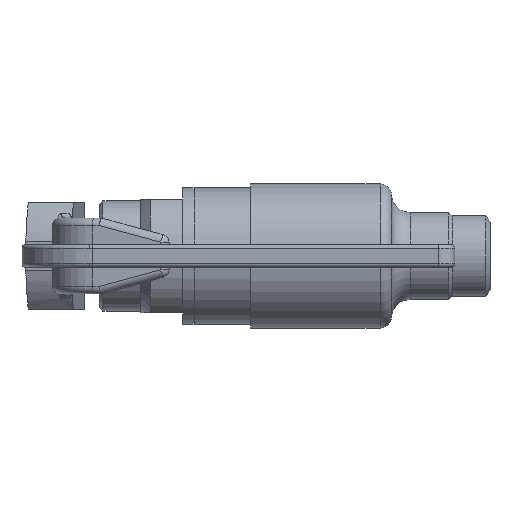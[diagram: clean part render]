
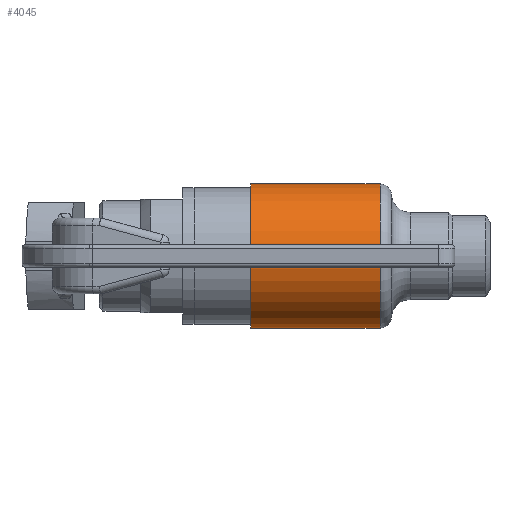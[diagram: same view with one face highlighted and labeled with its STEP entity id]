
A CAD part, left-side view. The second image highlights one B-rep face of the part: STEP entity #4045.
In plain terms, the highlighted cylindrical face has radius 19 mm (diameter 38 mm), a partial arc.
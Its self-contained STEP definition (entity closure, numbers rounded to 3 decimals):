
#16720 = VERTEX_POINT ( 'NONE', #719 ) ;
#16945 = EDGE_CURVE ( 'NONE', #16720, #3781, #918, .T. ) ;
#719 = CARTESIAN_POINT ( 'NONE',  ( 0., -49.016, -19. ) ) ;
#17119 = CARTESIAN_POINT ( 'NONE',  ( 0., -15., -19. ) ) ;
#918 = CIRCLE ( 'NONE', #919, 19. ) ;
#919 = AXIS2_PLACEMENT_3D ( 'NONE', #920, #921, #922 ) ;
#920 = CARTESIAN_POINT ( 'NONE',  ( 0., -49.016, 0. ) ) ;
#921 = DIRECTION ( 'NONE',  ( 0., 1., 0. ) ) ;
#922 = DIRECTION ( 'NONE',  ( 0., 0., -1. ) ) ;
#1264 = EDGE_CURVE ( 'NONE', #1523, #2674, #15760, .T. ) ;
#1523 = VERTEX_POINT ( 'NONE', #15932 ) ;
#1649 = ORIENTED_EDGE ( 'NONE', *, *, #1264, .T. ) ;
#1776 = LINE ( 'NONE', #1780, #1781 ) ;
#1780 = CARTESIAN_POINT ( 'NONE',  ( 0., -52., 19. ) ) ;
#1781 = VECTOR ( 'NONE', #1782, 1000. ) ;
#1782 = DIRECTION ( 'NONE',  ( 0., 1., 0. ) ) ;
#2180 = ORIENTED_EDGE ( 'NONE', *, *, #6501, .T. ) ;
#18692 = CARTESIAN_POINT ( 'NONE',  ( 0., -49.016, 19. ) ) ;
#2674 = VERTEX_POINT ( 'NONE', #17119 ) ;
#2728 = ORIENTED_EDGE ( 'NONE', *, *, #16945, .T. ) ;
#3270 = ORIENTED_EDGE ( 'NONE', *, *, #11708, .F. ) ;
#19669 = FACE_OUTER_BOUND ( 'NONE', #3800, .T. ) ;
#19670 = CYLINDRICAL_SURFACE ( 'NONE', #19671, 19. ) ;
#19671 = AXIS2_PLACEMENT_3D ( 'NONE', #19672, #19679, #19680 ) ;
#19672 = CARTESIAN_POINT ( 'NONE',  ( 0., -52., 0. ) ) ;
#19679 = DIRECTION ( 'NONE',  ( 0., 1., 0. ) ) ;
#19680 = DIRECTION ( 'NONE',  ( 0., 0., 1. ) ) ;
#3781 = VERTEX_POINT ( 'NONE', #18692 ) ;
#3800 = EDGE_LOOP ( 'NONE', ( #3270, #2728, #2180, #1649 ) ) ;
#4045 = ADVANCED_FACE ( 'NONE', ( #19669 ), #19670, .T. ) ;
#6501 = EDGE_CURVE ( 'NONE', #3781, #1523, #1776, .T. ) ;
#11708 = EDGE_CURVE ( 'NONE', #16720, #2674, #16200, .T. ) ;
#15760 = CIRCLE ( 'NONE', #15761, 19. ) ;
#15761 = AXIS2_PLACEMENT_3D ( 'NONE', #15762, #15763, #15764 ) ;
#15762 = CARTESIAN_POINT ( 'NONE',  ( 0., -15., 0. ) ) ;
#15763 = DIRECTION ( 'NONE',  ( 0., -1., 0. ) ) ;
#15764 = DIRECTION ( 'NONE',  ( 0., 0., 1. ) ) ;
#15932 = CARTESIAN_POINT ( 'NONE',  ( 0., -15., 19. ) ) ;
#16200 = LINE ( 'NONE', #16201, #16202 ) ;
#16201 = CARTESIAN_POINT ( 'NONE',  ( 0., -52., -19. ) ) ;
#16202 = VECTOR ( 'NONE', #16203, 1000. ) ;
#16203 = DIRECTION ( 'NONE',  ( 0., 1., 0. ) ) ;
